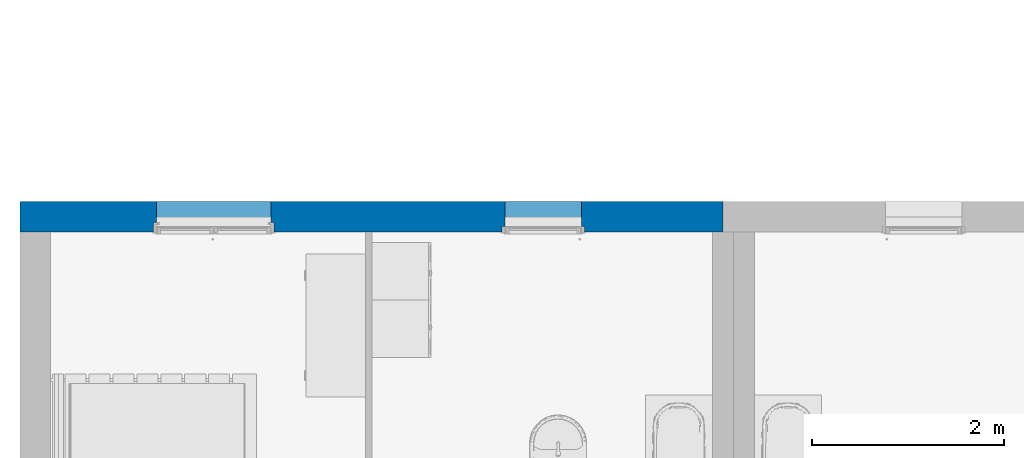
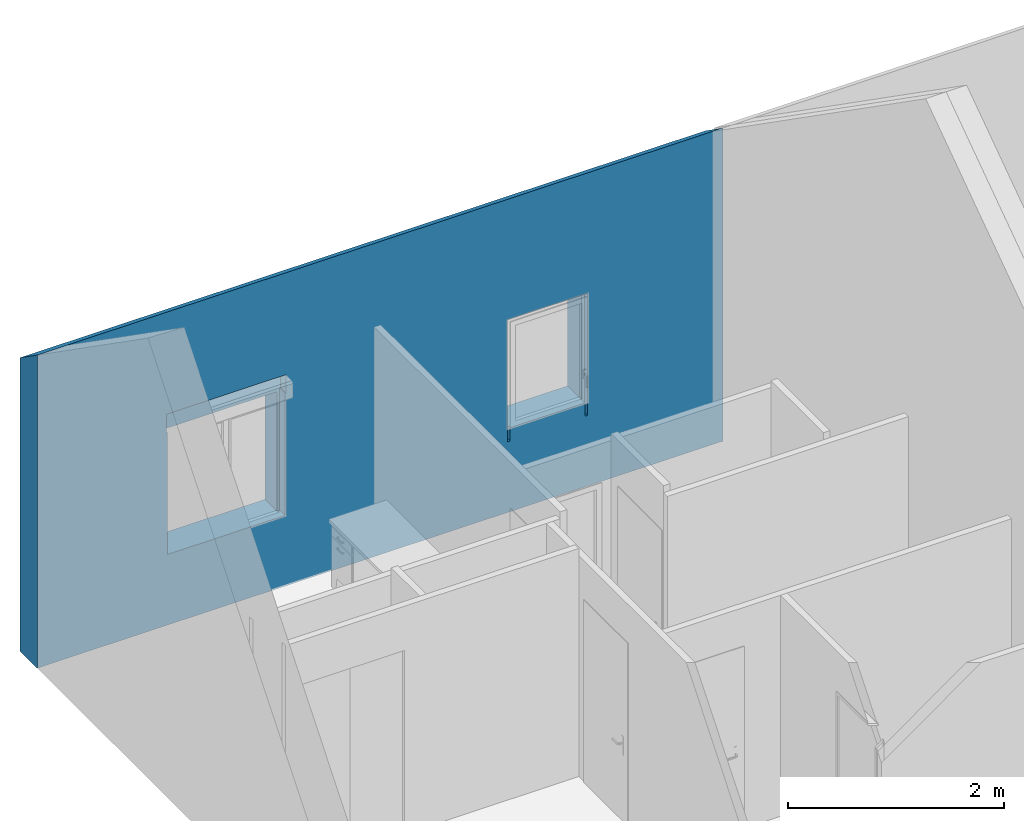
# One storey, part 19 of 61: 1 wall, 2 openings.
"""IFC2X3 building model written with IfcOpenShell, lengths in metres."""

from ifc_helpers import new_model, entity, si_unit, converted_unit, derived_unit, direction, frame, frame_2d, origin, place, context, subcontext, project, spatial, polyline, rectangle, extrude, clip, bounded_halfspace, faceted_brep, material, layer, layer_set, layer_usage, type_object, element, save


model = new_model("IFC2X3")

# Units and contexts
model_context = context("Model", 3, precision=1e-05, world=origin(), true_north=direction((6.12303176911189e-17, 1.0)))
body_context = subcontext(model_context, "Body", "Model", "MODEL_VIEW")
ifc_project = project(units=[si_unit("LENGTHUNIT", "METRE"), si_unit("AREAUNIT", "SQUARE_METRE"), si_unit("VOLUMEUNIT", "CUBIC_METRE"), converted_unit("PLANEANGLEUNIT", "DEGREE", entity("IfcRatioMeasure", 0.0174532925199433), si_unit("PLANEANGLEUNIT", "RADIAN"), dimensions=[0, 0, 0, 0, 0, 0, 0]), si_unit("MASSUNIT", "GRAM", prefix="KILO"), derived_unit("MASSDENSITYUNIT", [(si_unit("MASSUNIT", "GRAM", prefix="KILO"), 1), (si_unit("LENGTHUNIT", "METRE"), -3)]), si_unit("TIMEUNIT", "SECOND"), si_unit("FREQUENCYUNIT", "HERTZ"), si_unit("THERMODYNAMICTEMPERATUREUNIT", "DEGREE_CELSIUS"), derived_unit("THERMALTRANSMITTANCEUNIT", [(si_unit("MASSUNIT", "GRAM", prefix="KILO"), 1), (si_unit("THERMODYNAMICTEMPERATUREUNIT", "KELVIN"), -1), (si_unit("TIMEUNIT", "SECOND"), -3)]), derived_unit("VOLUMETRICFLOWRATEUNIT", [(si_unit("LENGTHUNIT", "METRE"), 3), (si_unit("TIMEUNIT", "SECOND"), -1)]), si_unit("ELECTRICCURRENTUNIT", "AMPERE"), si_unit("ELECTRICVOLTAGEUNIT", "VOLT"), si_unit("POWERUNIT", "WATT"), si_unit("FORCEUNIT", "NEWTON", prefix="KILO"), si_unit("ILLUMINANCEUNIT", "LUX"), si_unit("LUMINOUSFLUXUNIT", "LUMEN"), si_unit("LUMINOUSINTENSITYUNIT", "CANDELA"), derived_unit("USERDEFINED", [(si_unit("MASSUNIT", "GRAM", prefix="KILO"), -1), (si_unit("LENGTHUNIT", "METRE"), -2), (si_unit("TIMEUNIT", "SECOND"), 3), (si_unit("LUMINOUSFLUXUNIT", "LUMEN"), 1)]), derived_unit("LINEARVELOCITYUNIT", [(si_unit("LENGTHUNIT", "METRE"), 1), (si_unit("TIMEUNIT", "SECOND"), -1)]), si_unit("PRESSUREUNIT", "PASCAL"), derived_unit("USERDEFINED", [(si_unit("LENGTHUNIT", "METRE"), -2), (si_unit("MASSUNIT", "GRAM", prefix="KILO"), 1), (si_unit("TIMEUNIT", "SECOND"), -2)])], contexts=[model_context])

# Site, building, storey
site_placement = place(None, origin())
site = spatial("IfcSite", under=ifc_project, at=site_placement, Name="Surface", CompositionType="ELEMENT")
building_placement = place(site_placement, origin())
building = spatial("IfcBuilding", under=site, at=building_placement, CompositionType="ELEMENT")
storey_placement = place(building_placement, frame((0.0, 0.0, 2.82)))
storey = spatial("IfcBuildingStorey", under=building, at=storey_placement, Name="ETAGE", CompositionType="ELEMENT", Elevation=2.82)

# Wall, openings
ifc_material_1 = material(Name="Enduit blanc cassé2")
ifc_layer_1 = layer(ifc_material_1, 0.02)
ifc_material_2 = material(Name="Parpaing")
ifc_layer_2 = layer(ifc_material_2, 0.2)
ifc_material_3 = material(Name="Isolant")
ifc_layer_3 = layer(ifc_material_3, 0.1)
ifc_layer_set = layer_set([ifc_layer_1, ifc_layer_2, ifc_layer_3], Name="Mur de base:Ext. Parpaing 20 + Isolant 10 enduit blanc cassé")
ifc_layer_usage = layer_usage(ifc_layer_set, "AXIS2", "POSITIVE", -0.16)
wall_type = type_object("IfcWallType", Name="Mur de base:Ext. Parpaing 20 + Isolant 10 enduit blanc cassé", PredefinedType="STANDARD", material=ifc_layer_set)
wall_placement = place(storey_placement, frame((68.725009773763, 88.2677566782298, 0.0), z_axis=(0.0, 0.0, 1.0), x_axis=(-1.0, 0.0, 0.0)))
wall = element("IfcWallStandardCase", 1, at=wall_placement, inside=storey, type_object=wall_type, material=ifc_layer_usage, Name="Mur de base:Ext. Parpaing 20 + Isolant 10 enduit blanc cassé", ObjectType="Mur de base:Ext. Parpaing 20 + Isolant 10 enduit blanc cassé", context=body_context, shape_type="Clipping", body=[
    clip(extrude(rectangle(XDim=7.33864635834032, YDim=0.319999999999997, at=frame_2d((3.66932317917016, -5.41233724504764e-16), x_axis=(-1.0, 0.0))), origin(), (0.0, 0.0, 1.0), 3.5440664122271), bounded_halfspace(frame((0.0, -0.159999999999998, 3.32), z_axis=(0.0, -0.573576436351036, 0.819152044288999), x_axis=(1.0, 0.0, 0.0)), False, frame((0.0, -0.159999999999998, 3.32)), polyline([(0.0, 0.0), (7.33864635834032, 0.0), (7.33864635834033, 0.319999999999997), (7.01864635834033, 0.319999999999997), (0.110000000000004, 0.319999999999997), (0.0, 0.319999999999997), (0.0, 0.0)]))),
])
opening_1_placement = place(wall_placement, frame((2.30644170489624, 0.259999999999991, 0.799999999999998), z_axis=(0.0, 0.0, 1.0), x_axis=(-1.0, 0.0, 0.0)))
element("IfcOpeningElement", 2, at=opening_1_placement, cuts=wall, Name="Mur de base:Ext. Parpaing 20 + Isolant 10 enduit blanc cassé", ObjectType="Opening", context=body_context, shape_type="Brep", body=[
    faceted_brep([(0.830000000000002, 0.720000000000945, 1.35), (0.0300000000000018, 0.720000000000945, 1.35), (0.0300000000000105, 0.159999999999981, 1.35), (0.830000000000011, 0.159999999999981, 1.35), (0.0300000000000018, 0.720000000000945, 0.150000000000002), (0.830000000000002, 0.720000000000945, 0.150000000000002), (0.830000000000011, 0.159999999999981, 0.150000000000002), (0.830000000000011, 0.0999999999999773, 0.150000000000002), (0.830000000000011, 0.0, 0.150000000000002), (0.0300000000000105, 0.0, 0.150000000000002), (0.0300000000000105, 0.0999999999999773, 0.150000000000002), (0.0300000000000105, 0.159999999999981, 0.150000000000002), (0.830000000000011, 0.0, 1.35), (0.0300000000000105, 0.0, 1.35), (0.830000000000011, 0.159999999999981, 0.0), (0.860000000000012, 0.159999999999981, 0.0), (0.860000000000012, 0.0999999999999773, 0.0), (0.830000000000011, 0.0999999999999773, 0.0), (0.860000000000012, 0.0999999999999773, 1.38), (0.0, 0.0999999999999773, 1.38), (0.0, 0.0999999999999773, 0.0), (0.0300000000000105, 0.0999999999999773, 0.0), (0.0300000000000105, 0.0999999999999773, 1.35), (0.830000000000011, 0.0999999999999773, 1.35), (0.860000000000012, 0.159999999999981, 1.38), (0.0300000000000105, 0.159999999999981, 0.0), (0.0, 0.159999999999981, 0.0), (0.0, 0.159999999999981, 1.38)], [[[0, 1, 2, 3]], [[4, 5, 6, 7, 8, 9, 10, 11]], [[1, 0, 5, 4]], [[5, 0, 3, 6]], [[12, 13, 9, 8]], [[1, 4, 11, 2]], [[14, 15, 16, 17]], [[14, 17, 7, 6]], [[17, 16, 18, 19, 20, 21, 10, 22, 23, 7]], [[16, 15, 24, 18]], [[15, 14, 6, 3, 2, 11, 25, 26, 27, 24]], [[19, 18, 24, 27]], [[21, 20, 26, 25]], [[21, 25, 11, 10]], [[20, 19, 27, 26]], [[9, 13, 22, 10]], [[12, 8, 7, 23]], [[13, 12, 23, 22]]]),
])
opening_2_placement = place(wall_placement, frame((5.95557317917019, 0.260000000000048, 0.799999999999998), z_axis=(0.0, 0.0, 1.0), x_axis=(-1.0, 0.0, 0.0)))
element("IfcOpeningElement", 3, at=opening_2_placement, cuts=wall, Name="Mur de base:Ext. Parpaing 20 + Isolant 10 enduit blanc cassé", ObjectType="Opening", context=body_context, shape_type="Brep", body=[
    faceted_brep([(1.24, 0.72000000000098, 1.35), (0.0400000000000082, 0.720000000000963, 1.35), (0.0400000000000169, 0.199999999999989, 1.35), (1.24000000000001, 0.200000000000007, 1.35), (0.0400000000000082, 0.720000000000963, 0.0), (1.24, 0.72000000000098, 0.0), (1.24000000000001, 0.200000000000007, 0.0), (1.27000000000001, 0.200000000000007, 0.0), (1.27000000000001, 0.100000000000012, 0.0), (1.24000000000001, 0.100000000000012, 0.0), (1.24000000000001, 0.0, 0.0), (0.0400000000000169, 0.0, 0.0), (0.0400000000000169, 0.0999999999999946, 0.0), (0.0100000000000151, 0.0999999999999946, 0.0), (0.0100000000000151, 0.199999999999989, 0.0), (0.0400000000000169, 0.199999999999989, 0.0), (1.24000000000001, 0.0, 1.35), (0.0400000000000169, 0.0, 1.35), (1.27000000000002, 0.0999999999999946, 1.38), (1.28000000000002, 0.100000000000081, 1.38000000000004), (1.28000000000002, 0.100000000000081, 1.59000000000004), (0.0, 0.100000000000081, 1.59000000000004), (0.0, 0.0999999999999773, 1.38000000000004), (0.0100000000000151, 0.0999999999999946, 1.38), (0.0400000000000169, 0.0999999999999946, 1.35), (1.24000000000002, 0.0999999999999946, 1.35), (1.27000000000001, 0.199999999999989, 1.38000000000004), (0.0100000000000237, 0.199999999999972, 1.38000000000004), (0.0, 0.200000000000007, 1.38000000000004), (0.0, 0.199999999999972, 1.59000000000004), (1.28000000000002, 0.200000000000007, 1.59000000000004), (1.28000000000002, 0.200000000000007, 1.38000000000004)], [[[0, 1, 2, 3]], [[4, 5, 6, 7, 8, 9, 10, 11, 12, 13, 14, 15]], [[1, 0, 5, 4]], [[5, 0, 3, 6]], [[16, 17, 11, 10]], [[1, 4, 15, 2]], [[9, 8, 18, 19, 20, 21, 22, 23, 13, 12, 24, 25]], [[8, 7, 26, 18]], [[7, 6, 3, 2, 15, 14, 27, 28, 29, 30, 31, 26]], [[13, 23, 27, 14]], [[31, 30, 20, 19]], [[28, 22, 21, 29]], [[31, 19, 18, 26]], [[20, 30, 29, 21]], [[22, 28, 27, 23]], [[11, 17, 24, 12]], [[16, 10, 9, 25]], [[17, 16, 25, 24]]]),
])

save(model, "model.ifc")
